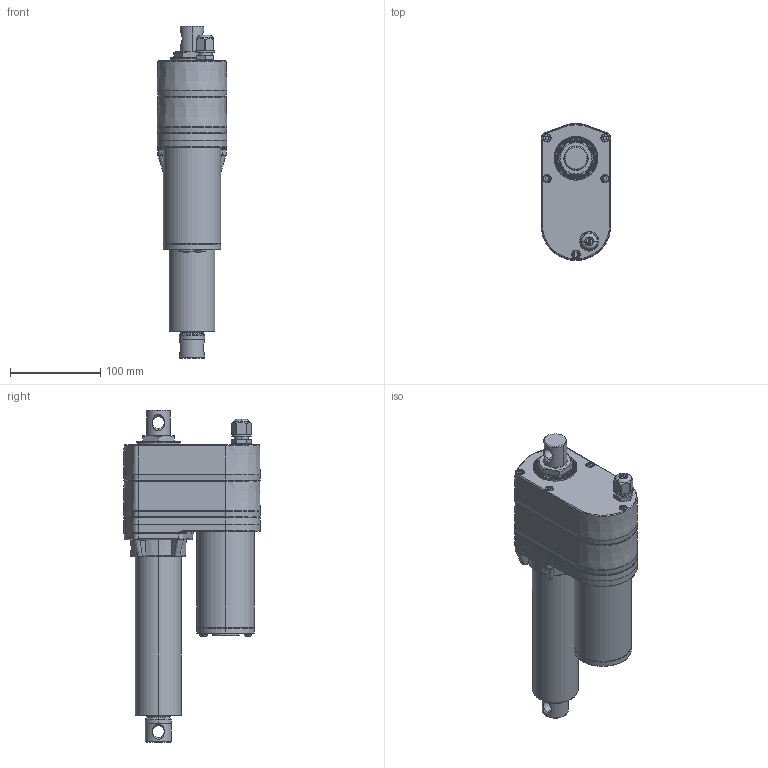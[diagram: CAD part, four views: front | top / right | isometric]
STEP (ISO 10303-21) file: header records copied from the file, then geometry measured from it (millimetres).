
FILE_DESCRIPTION((''),' ');
FILE_NAME('dszy3_pot_hs2_102.stp',' ',('R. Lindner'),('MSW GmbH'),' ','ACIS 14.0',' ');
FILE_SCHEMA(('automotive_design'));
Length unit declared in the file: inch
Products named in the file (2): DSZY3-POT-HS2-102|NAUO1#-1;Â°Â£Â®Ã†-Â¦Ã¹ÂªÃ¸9; DSZY3-POT-HS2-102|NAUO2#-2;Â°Â£Â®Ã†-Â±Ã›Ã‚Ã 5
Bounding box: 77.15 x 151.65 x 367.7 mm (x, y, z)
Volume: 1885021.5 mm3; surface area: 157209.9 mm2
Topology: 2 solids, 2 shells, 948 faces, 2444 edges, 1540 vertices
Faces by surface type: plane 553, cylinder 199, torus 88, cone 58, bspline 48, sphere 2
Entity records: 38951 total; most frequent: CARTESIAN_POINT 9990, ORIENTED_EDGE 4884, DIRECTION 4136, EDGE_CURVE 2442, VERTEX_POINT 1540, AXIS2_PLACEMENT_3D 1538, LINE 1060, VECTOR 1060
